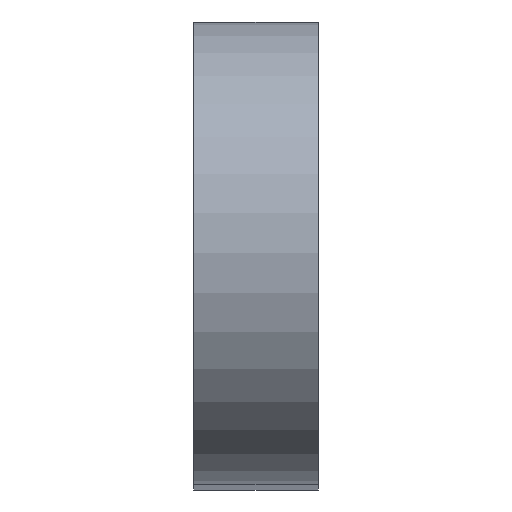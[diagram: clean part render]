
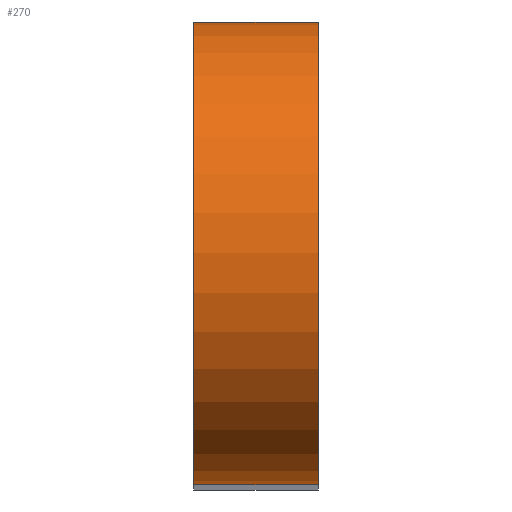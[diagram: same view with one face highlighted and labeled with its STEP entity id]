
A CAD part, top view. The second image highlights one B-rep face of the part: STEP entity #270.
In plain terms, the highlighted cylindrical face has radius 5 mm (diameter 10 mm), a partial arc.
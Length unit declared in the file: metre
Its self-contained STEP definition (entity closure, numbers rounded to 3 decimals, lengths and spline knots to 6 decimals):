
#14=CIRCLE('',#300,0.005);
#15=CIRCLE('',#301,0.005);
#17=CYLINDRICAL_SURFACE('',#299,0.005);
#50=ORIENTED_EDGE('',*,*,#117,.T.);
#51=ORIENTED_EDGE('',*,*,#116,.F.);
#52=ORIENTED_EDGE('',*,*,#118,.F.);
#53=ORIENTED_EDGE('',*,*,#119,.T.);
#116=EDGE_CURVE('',#147,#146,#174,.T.);
#117=EDGE_CURVE('',#148,#146,#14,.T.);
#118=EDGE_CURVE('',#149,#147,#15,.T.);
#119=EDGE_CURVE('',#149,#148,#175,.T.);
#146=VERTEX_POINT('',#431);
#147=VERTEX_POINT('',#433);
#148=VERTEX_POINT('',#437);
#149=VERTEX_POINT('',#439);
#174=LINE('',#434,#206);
#175=LINE('',#440,#207);
#206=VECTOR('',#353,1.);
#207=VECTOR('',#360,1.);
#222=EDGE_LOOP('',(#50,#51,#52,#53));
#240=FACE_BOUND('',#222,.T.);
#270=ADVANCED_FACE('',(#240),#17,.T.);
#299=AXIS2_PLACEMENT_3D('',#435,#354,#355);
#300=AXIS2_PLACEMENT_3D('',#436,#356,#357);
#301=AXIS2_PLACEMENT_3D('',#438,#358,#359);
#353=DIRECTION('',(1.,0.,0.));
#354=DIRECTION('',(1.,0.,0.));
#355=DIRECTION('',(0.,-1.,0.));
#356=DIRECTION('',(-1.,0.,0.));
#357=DIRECTION('',(0.,-1.,0.));
#358=DIRECTION('',(-1.,0.,0.));
#359=DIRECTION('',(0.,-1.,0.));
#360=DIRECTION('',(1.,0.,0.));
#431=CARTESIAN_POINT('',(0.0064,0.0192,-0.0225));
#433=CARTESIAN_POINT('',(0.0037,0.0192,-0.0225));
#434=CARTESIAN_POINT('',(0.0037,0.0192,-0.0225));
#435=CARTESIAN_POINT('',(0.0037,0.0142,-0.0225));
#436=CARTESIAN_POINT('',(0.0064,0.0142,-0.0225));
#437=CARTESIAN_POINT('',(0.0064,0.0092,-0.0225));
#438=CARTESIAN_POINT('',(0.0037,0.0142,-0.0225));
#439=CARTESIAN_POINT('',(0.0037,0.0092,-0.0225));
#440=CARTESIAN_POINT('',(0.0037,0.0092,-0.0225));
